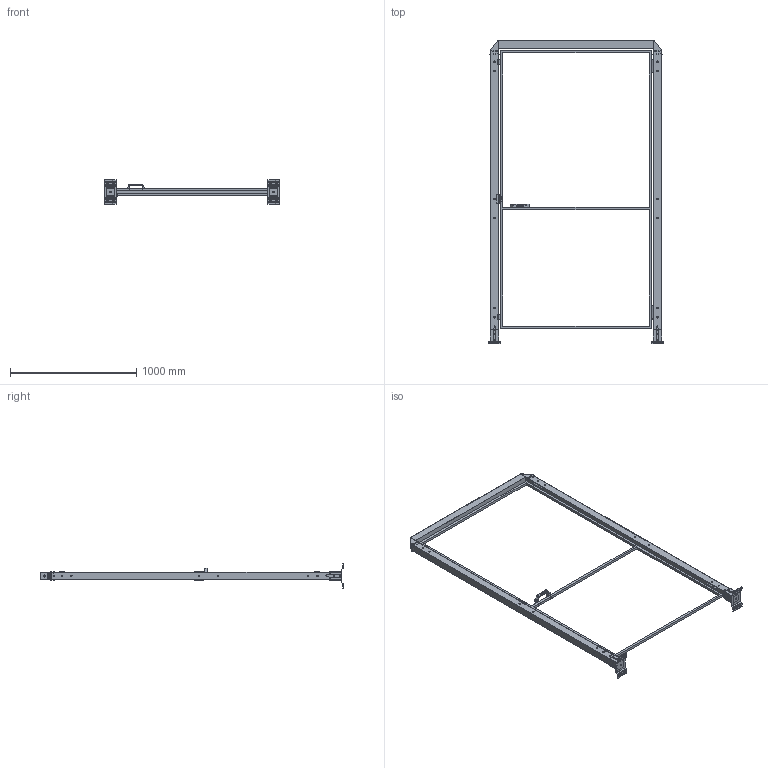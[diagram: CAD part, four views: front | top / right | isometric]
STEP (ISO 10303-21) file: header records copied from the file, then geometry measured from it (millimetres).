
FILE_DESCRIPTION(('STEP AP242'),'1');
FILE_NAME('vfda_bscncr2_12002320.stp','2025-01-23T13:59:01',('TraceParts'),('TraceParts S.A.'),'Spatial InterOp 3D',' ',' ');
FILE_SCHEMA(('AP242_MANAGED_MODEL_BASED_3D_ENGINEERING_MIM_LF {1 0 10303 442 1 1 4}'));
Length unit declared in the file: millimetre
Products named in the file (1): vfda_bscncr2_12002320_1
Bounding box: 1390 x 2401 x 192 mm (x, y, z)
Volume: 5772352.4 mm3; surface area: 3682860 mm2
Topology: 12 solids, 12 shells, 1942 faces, 5208 edges, 3340 vertices
Faces by surface type: plane 950, cylinder 652, bspline 236, cone 60, torus 40, sphere 4
Entity records: 78408 total; most frequent: CARTESIAN_POINT 14215, ORIENTED_EDGE 10408, DIRECTION 9578, EDGE_CURVE 5204, VERTEX_POINT 3340, LINE 3216, VECTOR 3216, AXIS2_PLACEMENT_3D 3181
